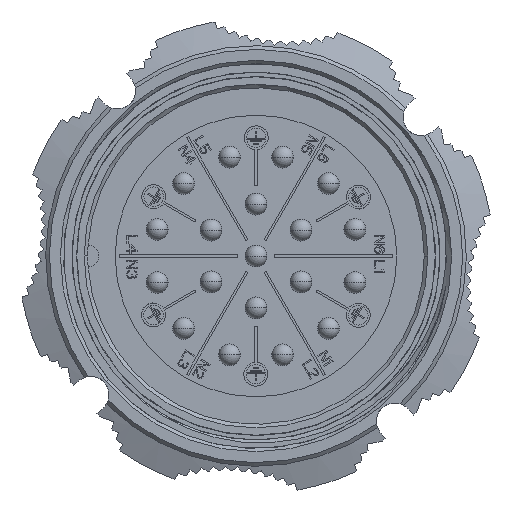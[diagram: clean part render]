
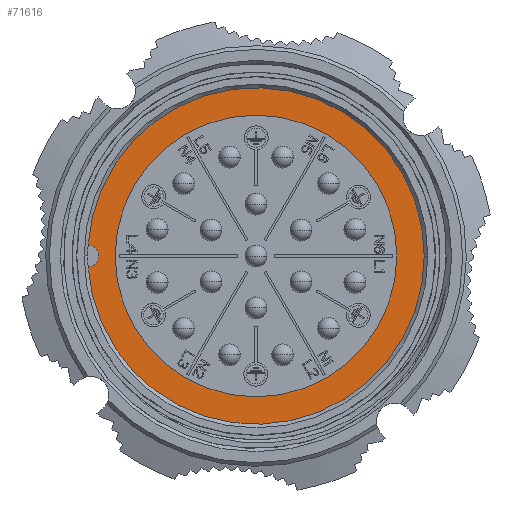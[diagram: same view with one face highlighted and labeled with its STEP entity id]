
A CAD part, left-side view. The second image highlights one B-rep face of the part: STEP entity #71616.
In plain terms, the highlighted planar face has unit normal (-1, 0, 0).
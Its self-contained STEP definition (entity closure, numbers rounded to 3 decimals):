
#1739=CARTESIAN_POINT('',(-9.8,0.,0.));
#1740=DIRECTION('',(-1.,0.,0.));
#1741=DIRECTION('',(0.,-1.,0.));
#1742=AXIS2_PLACEMENT_3D('',#1739,#1740,#1741);
#1744=CARTESIAN_POINT('',(-9.8,0.,0.));
#1745=DIRECTION('',(-1.,0.,0.));
#1746=DIRECTION('',(0.,1.,0.));
#1747=AXIS2_PLACEMENT_3D('',#1744,#1745,#1746);
#1749=CARTESIAN_POINT('',(-9.8,0.,0.));
#1750=DIRECTION('',(-1.,0.,0.));
#1751=DIRECTION('',(0.,1.,0.));
#1752=AXIS2_PLACEMENT_3D('',#1749,#1750,#1751);
#1754=CARTESIAN_POINT('',(-9.8,0.,0.));
#1755=DIRECTION('',(-1.,0.,0.));
#1756=DIRECTION('',(0.,-1.,0.));
#1757=AXIS2_PLACEMENT_3D('',#1754,#1755,#1756);
#70014=CARTESIAN_POINT('',(-9.8,-19.25,0.));
#70015=CARTESIAN_POINT('',(-9.8,19.25,0.));
#70016=VERTEX_POINT('',#70014);
#70017=VERTEX_POINT('',#70015);
#70232=CARTESIAN_POINT('',(-9.8,23.4,0.));
#70233=CARTESIAN_POINT('',(-9.8,-23.4,0.));
#70234=VERTEX_POINT('',#70232);
#70235=VERTEX_POINT('',#70233);
#71601=CARTESIAN_POINT('',(-9.8,0.,0.));
#71602=DIRECTION('',(1.,0.,0.));
#71603=DIRECTION('',(0.,-1.,0.));
#71604=AXIS2_PLACEMENT_3D('',#71601,#71602,#71603);
#71605=PLANE('',#71604);
#71607=ORIENTED_EDGE('',*,*,#71606,.F.);
#71609=ORIENTED_EDGE('',*,*,#71608,.F.);
#71610=EDGE_LOOP('',(#71607,#71609));
#71611=FACE_OUTER_BOUND('',#71610,.F.);
#71612=ORIENTED_EDGE('',*,*,#71581,.T.);
#71613=ORIENTED_EDGE('',*,*,#71595,.T.);
#71614=EDGE_LOOP('',(#71612,#71613));
#71615=FACE_BOUND('',#71614,.F.);
#71616=ADVANCED_FACE('',(#71611,#71615),#71605,.F.);
#1743=CIRCLE('',#1742,19.25);
#1748=CIRCLE('',#1747,19.25);
#1753=CIRCLE('',#1752,23.4);
#1758=CIRCLE('',#1757,23.4);
#71581=EDGE_CURVE('',#70016,#70017,#1743,.T.);
#71595=EDGE_CURVE('',#70017,#70016,#1748,.T.);
#71606=EDGE_CURVE('',#70234,#70235,#1753,.T.);
#71608=EDGE_CURVE('',#70235,#70234,#1758,.T.);
